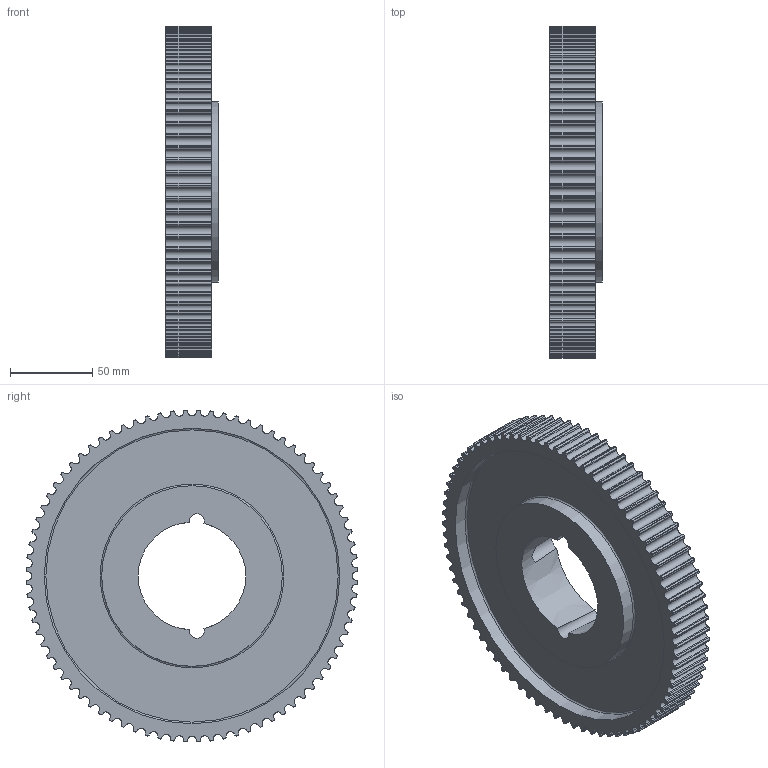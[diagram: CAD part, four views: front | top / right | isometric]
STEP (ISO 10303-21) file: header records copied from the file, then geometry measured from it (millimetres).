
FILE_DESCRIPTION( ( 'STEP AP203' ), '1' );
FILE_NAME( 'C:/Users/Stangenbergd/Documents/CAD_Step/1/17477140.stp', '2020-09-13T17:55:53', ( 'License CC BY-ND 4.0' ), ( 'CADENAS' ), ' ', 'PARTsolutions', ' ' );
FILE_SCHEMA( ( 'CONFIG_CONTROL_DESIGN' ) );
Length unit declared in the file: millimetre
Products named in the file (1): _17477140
Bounding box: 32 x 202.21 x 202.21 mm (x, y, z)
Volume: 485773.7 mm3; surface area: 105482 mm2
Topology: 1 solids, 1 shells, 500 faces, 1478 edges, 984 vertices
Faces by surface type: cylinder 327, plane 166, torus 4, cone 3
Full cylindrical faces by diameter (mm): 110 x2, 180 x2
Entity records: 17042 total; most frequent: DIRECTION 3128, CARTESIAN_POINT 3010, ORIENTED_EDGE 2940, EDGE_CURVE 1470, AXIS2_PLACEMENT_3D 1164, VERTEX_POINT 984, LINE 800, VECTOR 800
